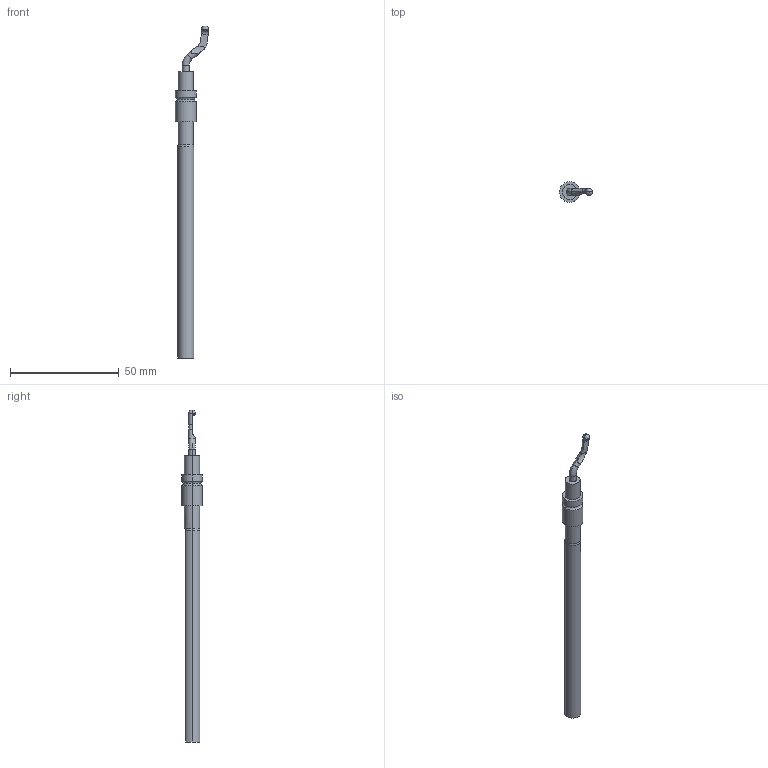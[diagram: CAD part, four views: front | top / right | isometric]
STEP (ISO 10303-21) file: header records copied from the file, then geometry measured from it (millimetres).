
FILE_DESCRIPTION (( 'STEP AP203' ), '1' );
FILE_NAME ('9005-50-6071.STEP', '2021-10-07T13:02:02', ( '' ), ( '' ), 'SwSTEP 2.0', 'SolidWorks 2020', '' );
FILE_SCHEMA (( 'CONFIG_CONTROL_DESIGN' ));
Length unit declared in the file: inch
Products named in the file (1): 9005-50-6071
Bounding box: 15.21 x 9.53 x 152.32 mm (x, y, z)
Volume: 5635.3 mm3; surface area: 4106.3 mm2
Topology: 1 solids, 1 shells, 167 faces, 349 edges, 215 vertices
Faces by surface type: plane 130, cylinder 23, torus 14
Entity records: 4489 total; most frequent: CARTESIAN_POINT 811, DIRECTION 742, ORIENTED_EDGE 698, EDGE_CURVE 349, VECTOR 282, LINE 282, AXIS2_PLACEMENT_3D 230, VERTEX_POINT 215
